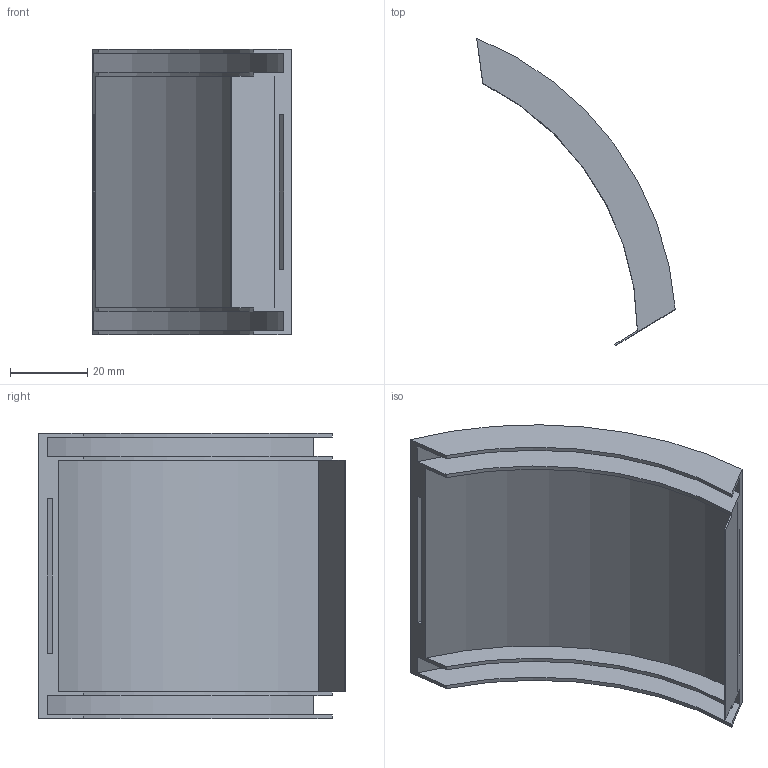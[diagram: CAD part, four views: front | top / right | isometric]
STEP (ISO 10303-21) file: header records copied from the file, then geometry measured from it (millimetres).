
FILE_DESCRIPTION(('STEP AP203'), '1');
FILE_NAME('ðåçîíàòîð 5', '', ('UNSPECIFIED'), ('UNSPECIFIED'), 'ASCON STEP Converter 1.3', 'ASCON Math Kernel', '');
FILE_SCHEMA(('CONFIG_CONTROL_DESIGN'));
Length unit declared in the file: millimetre
Bounding box: 51.46 x 79.64 x 74 mm (x, y, z)
Volume: 25369.4 mm3; surface area: 28109.2 mm2
Topology: 1 solids, 1 shells, 27 faces, 73 edges, 48 vertices
Faces by surface type: plane 17, cylinder 10
Entity records: 1117 total; most frequent: DIRECTION 151, CARTESIAN_POINT 149, ORIENTED_EDGE 146, EDGE_CURVE 73, LINE 51, VECTOR 51, AXIS2_PLACEMENT_3D 50, VERTEX_POINT 48
